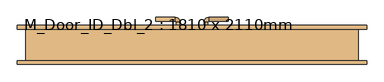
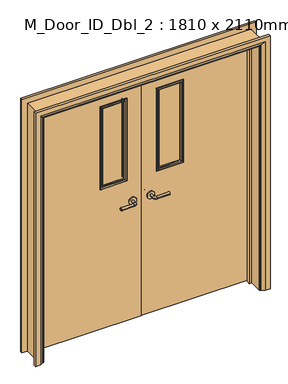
"""IFC4 building model written with IfcOpenShell, lengths in millimetres: door geometry, M_Door_ID_Dbl_2 : 1810 x 2110mm."""

from ifc_helpers import new_model, si_unit, point, frame, frame_2d, origin, place, context, project, spatial, polyline, circle_curve, ellipse_curve, trimmed, segment, composite_curve, outline, extrude, faceted_brep, source, transform, mapped, element, save
from ifc_brep_helpers import plane_surface, cylinder_surface, revolved_surface, advanced_brep


def m_door_id_dbl_2_1810_x_2110mm_165bc984(model_context):
    return source(origin(), model_context, "Body", "SolidModel", [
        advanced_brep(
        [(-65.0, 47.0, 1007.0), (-85.0, 47.0, 1007.0), (-65.0, 17.0, 1007.0), (-85.0, 17.0, 1007.0), (-90.0, 12.0, 1007.0), (-90.0, -8.0, 1007.0), (-195.0, -8.0, 1007.0), (-195.0, 12.0, 1007.0)],
        [
            (0, 1, circle_curve(frame((-75.0, 47.0, 1007.0), z_axis=(0.0, 1.0, 0.0), x_axis=(-1.0, 0.0, 0.0)), 10.0)),
            (1, 0, circle_curve(frame((-75.0, 47.0, 1007.0), z_axis=(0.0, 1.0, 0.0), x_axis=(-1.0, 0.0, 0.0)), 10.0)),
            (0, 2),
            (2, 3, circle_curve(frame((-75.0, 17.0, 1007.0), z_axis=(0.0, 1.0, 0.0), x_axis=(-1.0, 0.0, 0.0)), 10.0)),
            (3, 1),
            (3, 2, circle_curve(frame((-75.0, 17.0, 1007.0), z_axis=(0.0, 1.0, 0.0), x_axis=(-1.0, 0.0, 0.0)), 10.0)),
            (4, 3, circle_curve(frame((-90.0, 17.0, 1007.0), z_axis=(0.0, 0.0, 1.0), x_axis=(1.0, 0.0, 0.0)), 5.0)),
            (2, 5, circle_curve(frame((-90.0, 17.0, 1007.0), z_axis=(0.0, 0.0, -1.0), x_axis=(1.0, 0.0, 0.0)), 25.0)),
            (5, 4, circle_curve(frame((-90.0, 2.0, 1007.0), z_axis=(1.0, 0.0, 0.0), x_axis=(0.0, 1.0, 0.0)), 10.0)),
            (4, 5, circle_curve(frame((-90.0, 2.0, 1007.0), z_axis=(1.0, 0.0, 0.0), x_axis=(0.0, 1.0, 0.0)), 10.0)),
            (6, 7, circle_curve(frame((-195.0, 2.0, 1007.0), z_axis=(-1.0, 0.0, 0.0), x_axis=(0.0, 1.0, 0.0)), 10.0)),
            (7, 6, circle_curve(frame((-195.0, 2.0, 1007.0), z_axis=(-1.0, 0.0, 0.0), x_axis=(0.0, 1.0, 0.0)), 10.0)),
            (5, 6),
            (7, 4),
        ],
        [
            plane_surface(frame((-75.0, 47.0, 1007.0), z_axis=(0.0, 1.0, 0.0), x_axis=(0.0, 0.0, 1.0))),
            cylinder_surface(frame((-75.0, 47.0, 1007.0), z_axis=(0.0, 1.0, 0.0), x_axis=(-1.0, 0.0, 0.0)), 10.0),
            revolved_surface(trimmed(ellipse_curve(frame((-75.0, 17.0, 1007.0), z_axis=(0.0, 1.0, 0.0), x_axis=(-1.0, 0.0, 0.0)), 10.0, 10.0), [point((-65.0, 17.0, 1007.0))], [point((-85.0, 17.0, 1007.0))], True, "CARTESIAN"), (-90.0, 17.0, 1007.0), (0.0, 0.0, -1.0)),
            revolved_surface(trimmed(ellipse_curve(frame((-75.0, 17.0, 1007.0), z_axis=(0.0, 1.0, 0.0), x_axis=(-1.0, 0.0, 0.0)), 10.0, 10.0), [point((-85.0, 17.0, 1007.0))], [point((-65.0, 17.0, 1007.0))], True, "CARTESIAN"), (-90.0, 17.0, 1007.0), (0.0, 0.0, -1.0)),
            plane_surface(frame((-195.0, 2.0, 1007.0), z_axis=(-1.0, 0.0, 0.0), x_axis=(0.0, 0.0, 1.0))),
            cylinder_surface(frame((-90.0, 2.0, 1007.0), z_axis=(1.0, 0.0, 0.0), x_axis=(0.0, 1.0, 0.0)), 10.0),
        ],
        [
            (0, [[1, 2]]),
            (1, [[-1, 3, 4, 5]]),
            (1, [[-2, -5, 6, -3]]),
            (2, [[7, -4, 8, 9]]),
            (3, [[-8, -6, -7, 10]]),
            (4, [[11, 12]]),
            (5, [[-9, 13, -12, 14]]),
            (5, [[-10, -14, -11, -13]]),
        ],
    ),
        extrude(outline(composite_curve([segment(trimmed(circle_curve(frame_2d((1007.0, -72.5)), 30.0), [point((1007.0, -42.5))], [point((1007.0, -102.5))], False, "CARTESIAN"), True, "CONTINUOUS"), segment(trimmed(circle_curve(frame_2d((1007.0, -72.5)), 30.0), [point((1007.0, -102.5))], [point((1007.0, -42.5))], False, "CARTESIAN"), True, "CONTINUOUS")], self_intersect=False)), frame((0.0, 47.0, 0.0), z_axis=(0.0, 1.0, 0.0), x_axis=(0.0, 0.0, 1.0)), (0.0, 0.0, 1.0), 8.0),
        advanced_brep(
        [(-65.0, 93.0, 1007.0), (-85.0, 93.0, 1007.0), (-85.0, 123.0, 1007.0), (-65.0, 123.0, 1007.0), (-90.0, 128.0, 1007.0), (-90.0, 148.0, 1007.0), (-195.0, 148.0, 1007.0), (-195.0, 128.0, 1007.0)],
        [
            (0, 1, circle_curve(frame((-75.0, 93.0, 1007.0), z_axis=(0.0, -1.0, 0.0), x_axis=(-1.0, 0.0, 0.0)), 10.0)),
            (1, 0, circle_curve(frame((-75.0, 93.0, 1007.0), z_axis=(0.0, -1.0, 0.0), x_axis=(-1.0, 0.0, 0.0)), 10.0)),
            (1, 2),
            (2, 3, circle_curve(frame((-75.0, 123.0, 1007.0), z_axis=(0.0, -1.0, 0.0), x_axis=(-1.0, 0.0, 0.0)), 10.0)),
            (3, 0),
            (3, 2, circle_curve(frame((-75.0, 123.0, 1007.0), z_axis=(0.0, -1.0, 0.0), x_axis=(-1.0, 0.0, 0.0)), 10.0)),
            (4, 5, circle_curve(frame((-90.0, 138.0, 1007.0), z_axis=(1.0, 0.0, 0.0), x_axis=(0.0, -1.0, 0.0)), 10.0)),
            (5, 3, circle_curve(frame((-90.0, 123.0, 1007.0), z_axis=(0.0, 0.0, -1.0), x_axis=(1.0, 0.0, 0.0)), 25.0)),
            (2, 4, circle_curve(frame((-90.0, 123.0, 1007.0), z_axis=(0.0, 0.0, 1.0), x_axis=(1.0, 0.0, 0.0)), 5.0)),
            (5, 4, circle_curve(frame((-90.0, 138.0, 1007.0), z_axis=(1.0, 0.0, 0.0), x_axis=(0.0, -1.0, 0.0)), 10.0)),
            (6, 7, circle_curve(frame((-195.0, 138.0, 1007.0), z_axis=(-1.0, 0.0, 0.0), x_axis=(0.0, -1.0, 0.0)), 10.0)),
            (7, 6, circle_curve(frame((-195.0, 138.0, 1007.0), z_axis=(-1.0, 0.0, 0.0), x_axis=(0.0, -1.0, 0.0)), 10.0)),
            (4, 7),
            (6, 5),
        ],
        [
            plane_surface(frame((-75.0, 93.0, 1007.0), z_axis=(0.0, -1.0, 0.0), x_axis=(0.0, 0.0, 1.0))),
            cylinder_surface(frame((-75.0, 93.0, 1007.0), z_axis=(0.0, -1.0, 0.0), x_axis=(-1.0, 0.0, 0.0)), 10.0),
            revolved_surface(trimmed(ellipse_curve(frame((-75.0, 123.0, 1007.0), z_axis=(0.0, 1.0, 0.0), x_axis=(-1.0, 0.0, 0.0)), 10.0, 10.0), [point((-65.0, 123.0, 1007.0))], [point((-85.0, 123.0, 1007.0))], True, "CARTESIAN"), (-90.0, 123.0, 1007.0), (0.0, 0.0, -1.0)),
            revolved_surface(trimmed(ellipse_curve(frame((-75.0, 123.0, 1007.0), z_axis=(0.0, 1.0, 0.0), x_axis=(-1.0, 0.0, 0.0)), 10.0, 10.0), [point((-85.0, 123.0, 1007.0))], [point((-65.0, 123.0, 1007.0))], True, "CARTESIAN"), (-90.0, 123.0, 1007.0), (0.0, 0.0, -1.0)),
            plane_surface(frame((-195.0, 138.0, 1007.0), z_axis=(-1.0, 0.0, 0.0), x_axis=(0.0, 0.0, 1.0))),
            cylinder_surface(frame((-90.0, 138.0, 1007.0), z_axis=(1.0, 0.0, 0.0), x_axis=(0.0, -1.0, 0.0)), 10.0),
        ],
        [
            (0, [[1, 2]]),
            (1, [[3, 4, 5, -2]]),
            (1, [[-5, 6, -3, -1]]),
            (2, [[7, 8, -4, 9]]),
            (3, [[10, -9, -6, -8]]),
            (4, [[11, 12]]),
            (5, [[13, -11, 14, -7]]),
            (5, [[-14, -12, -13, -10]]),
        ],
    ),
        extrude(outline(composite_curve([segment(trimmed(circle_curve(frame_2d((1007.0, -72.5)), 30.0), [point((1007.0, -42.5))], [point((1007.0, -102.5))], False, "CARTESIAN"), True, "CONTINUOUS"), segment(trimmed(circle_curve(frame_2d((1007.0, -72.5)), 30.0), [point((1007.0, -102.5))], [point((1007.0, -42.5))], False, "CARTESIAN"), True, "CONTINUOUS")], self_intersect=False)), frame((0.0, 85.0, 0.0), z_axis=(0.0, 1.0, 0.0), x_axis=(0.0, 0.0, 1.0)), (0.0, 0.0, 1.0), 8.0),
        advanced_brep(
        [(65.0, 47.0, 1007.0), (85.0, 47.0, 1007.0), (85.0, 17.0, 1007.0), (65.0, 17.0, 1007.0), (90.0, 12.0, 1007.0), (90.0, -8.0, 1007.0), (195.0, -8.0, 1007.0), (195.0, 12.0, 1007.0)],
        [
            (0, 1, circle_curve(frame((75.0, 47.0, 1007.0), z_axis=(0.0, 1.0, 0.0), x_axis=(1.0, 0.0, 0.0)), 10.0)),
            (1, 0, circle_curve(frame((75.0, 47.0, 1007.0), z_axis=(0.0, 1.0, 0.0), x_axis=(1.0, 0.0, 0.0)), 10.0)),
            (1, 2),
            (2, 3, circle_curve(frame((75.0, 17.0, 1007.0), z_axis=(0.0, 1.0, 0.0), x_axis=(1.0, 0.0, 0.0)), 10.0)),
            (3, 0),
            (3, 2, circle_curve(frame((75.0, 17.0, 1007.0), z_axis=(0.0, 1.0, 0.0), x_axis=(1.0, 0.0, 0.0)), 10.0)),
            (4, 5, circle_curve(frame((90.0, 2.0, 1007.0), z_axis=(-1.0, 0.0, 0.0), x_axis=(0.0, 1.0, 0.0)), 10.0)),
            (5, 3, circle_curve(frame((90.0, 17.0, 1007.0), z_axis=(0.0, 0.0, -1.0), x_axis=(-1.0, 0.0, 0.0)), 25.0)),
            (2, 4, circle_curve(frame((90.0, 17.0, 1007.0), z_axis=(0.0, 0.0, 1.0), x_axis=(-1.0, 0.0, 0.0)), 5.0)),
            (5, 4, circle_curve(frame((90.0, 2.0, 1007.0), z_axis=(-1.0, 0.0, 0.0), x_axis=(0.0, 1.0, 0.0)), 10.0)),
            (6, 7, circle_curve(frame((195.0, 2.0, 1007.0), z_axis=(1.0, 0.0, 0.0), x_axis=(0.0, 1.0, 0.0)), 10.0)),
            (7, 6, circle_curve(frame((195.0, 2.0, 1007.0), z_axis=(1.0, 0.0, 0.0), x_axis=(0.0, 1.0, 0.0)), 10.0)),
            (4, 7),
            (6, 5),
        ],
        [
            plane_surface(frame((75.0, 47.0, 1007.0), z_axis=(0.0, 1.0, 0.0), x_axis=(0.0, 0.0, 1.0))),
            cylinder_surface(frame((75.0, 47.0, 1007.0), z_axis=(0.0, 1.0, 0.0), x_axis=(1.0, 0.0, 0.0)), 10.0),
            revolved_surface(trimmed(ellipse_curve(frame((75.0, 17.0, 1007.0), z_axis=(0.0, -1.0, 0.0), x_axis=(1.0, 0.0, 0.0)), 10.0, 10.0), [point((65.0, 17.0, 1007.0))], [point((85.0, 17.0, 1007.0))], True, "CARTESIAN"), (90.0, 17.0, 1007.0), (0.0, 0.0, -1.0)),
            revolved_surface(trimmed(ellipse_curve(frame((75.0, 17.0, 1007.0), z_axis=(0.0, -1.0, 0.0), x_axis=(1.0, 0.0, 0.0)), 10.0, 10.0), [point((85.0, 17.0, 1007.0))], [point((65.0, 17.0, 1007.0))], True, "CARTESIAN"), (90.0, 17.0, 1007.0), (0.0, 0.0, -1.0)),
            plane_surface(frame((195.0, 2.0, 1007.0), z_axis=(1.0, 0.0, 0.0), x_axis=(0.0, 0.0, 1.0))),
            cylinder_surface(frame((90.0, 2.0, 1007.0), z_axis=(-1.0, 0.0, 0.0), x_axis=(0.0, 1.0, 0.0)), 10.0),
        ],
        [
            (0, [[1, 2]]),
            (1, [[3, 4, 5, -2]]),
            (1, [[-5, 6, -3, -1]]),
            (2, [[7, 8, -4, 9]]),
            (3, [[10, -9, -6, -8]]),
            (4, [[11, 12]]),
            (5, [[13, -11, 14, -7]]),
            (5, [[-14, -12, -13, -10]]),
        ],
    ),
        extrude(outline(composite_curve([segment(trimmed(circle_curve(frame_2d((1007.0, 72.5)), 30.0), [point((1007.0, 42.5))], [point((1007.0, 102.5))], False, "CARTESIAN"), True, "CONTINUOUS"), segment(trimmed(circle_curve(frame_2d((1007.0, 72.5)), 30.0), [point((1007.0, 102.5))], [point((1007.0, 42.5))], False, "CARTESIAN"), True, "CONTINUOUS")], self_intersect=False)), frame((0.0, 47.0, 0.0), z_axis=(0.0, 1.0, 0.0), x_axis=(0.0, 0.0, 1.0)), (0.0, 0.0, 1.0), 8.0),
        advanced_brep(
        [(65.0, 93.0, 1007.0), (85.0, 93.0, 1007.0), (65.0, 123.0, 1007.0), (85.0, 123.0, 1007.0), (90.0, 128.0, 1007.0), (90.0, 148.0, 1007.0), (195.0, 148.0, 1007.0), (195.0, 128.0, 1007.0)],
        [
            (0, 1, circle_curve(frame((75.0, 93.0, 1007.0), z_axis=(0.0, -1.0, 0.0), x_axis=(1.0, 0.0, 0.0)), 10.0)),
            (1, 0, circle_curve(frame((75.0, 93.0, 1007.0), z_axis=(0.0, -1.0, 0.0), x_axis=(1.0, 0.0, 0.0)), 10.0)),
            (0, 2),
            (2, 3, circle_curve(frame((75.0, 123.0, 1007.0), z_axis=(0.0, -1.0, 0.0), x_axis=(1.0, 0.0, 0.0)), 10.0)),
            (3, 1),
            (3, 2, circle_curve(frame((75.0, 123.0, 1007.0), z_axis=(0.0, -1.0, 0.0), x_axis=(1.0, 0.0, 0.0)), 10.0)),
            (4, 3, circle_curve(frame((90.0, 123.0, 1007.0), z_axis=(0.0, 0.0, 1.0), x_axis=(-1.0, 0.0, 0.0)), 5.0)),
            (2, 5, circle_curve(frame((90.0, 123.0, 1007.0), z_axis=(0.0, 0.0, -1.0), x_axis=(-1.0, 0.0, 0.0)), 25.0)),
            (5, 4, circle_curve(frame((90.0, 138.0, 1007.0), z_axis=(-1.0, 0.0, 0.0), x_axis=(0.0, -1.0, 0.0)), 10.0)),
            (4, 5, circle_curve(frame((90.0, 138.0, 1007.0), z_axis=(-1.0, 0.0, 0.0), x_axis=(0.0, -1.0, 0.0)), 10.0)),
            (6, 7, circle_curve(frame((195.0, 138.0, 1007.0), z_axis=(1.0, 0.0, 0.0), x_axis=(0.0, -1.0, 0.0)), 10.0)),
            (7, 6, circle_curve(frame((195.0, 138.0, 1007.0), z_axis=(1.0, 0.0, 0.0), x_axis=(0.0, -1.0, 0.0)), 10.0)),
            (5, 6),
            (7, 4),
        ],
        [
            plane_surface(frame((75.0, 93.0, 1007.0), z_axis=(0.0, -1.0, 0.0), x_axis=(0.0, 0.0, 1.0))),
            cylinder_surface(frame((75.0, 93.0, 1007.0), z_axis=(0.0, -1.0, 0.0), x_axis=(1.0, 0.0, 0.0)), 10.0),
            revolved_surface(trimmed(ellipse_curve(frame((75.0, 123.0, 1007.0), z_axis=(0.0, -1.0, 0.0), x_axis=(1.0, 0.0, 0.0)), 10.0, 10.0), [point((65.0, 123.0, 1007.0))], [point((85.0, 123.0, 1007.0))], True, "CARTESIAN"), (90.0, 123.0, 1007.0), (0.0, 0.0, -1.0)),
            revolved_surface(trimmed(ellipse_curve(frame((75.0, 123.0, 1007.0), z_axis=(0.0, -1.0, 0.0), x_axis=(1.0, 0.0, 0.0)), 10.0, 10.0), [point((85.0, 123.0, 1007.0))], [point((65.0, 123.0, 1007.0))], True, "CARTESIAN"), (90.0, 123.0, 1007.0), (0.0, 0.0, -1.0)),
            plane_surface(frame((195.0, 138.0, 1007.0), z_axis=(1.0, 0.0, 0.0), x_axis=(0.0, 0.0, 1.0))),
            cylinder_surface(frame((90.0, 138.0, 1007.0), z_axis=(-1.0, 0.0, 0.0), x_axis=(0.0, -1.0, 0.0)), 10.0),
        ],
        [
            (0, [[1, 2]]),
            (1, [[-1, 3, 4, 5]]),
            (1, [[-2, -5, 6, -3]]),
            (2, [[7, -4, 8, 9]]),
            (3, [[-8, -6, -7, 10]]),
            (4, [[11, 12]]),
            (5, [[-9, 13, -12, 14]]),
            (5, [[-10, -14, -11, -13]]),
        ],
    ),
        extrude(outline(composite_curve([segment(trimmed(circle_curve(frame_2d((1007.0, 72.5)), 30.0), [point((1007.0, 42.5))], [point((1007.0, 102.5))], False, "CARTESIAN"), True, "CONTINUOUS"), segment(trimmed(circle_curve(frame_2d((1007.0, 72.5)), 30.0), [point((1007.0, 102.5))], [point((1007.0, 42.5))], False, "CARTESIAN"), True, "CONTINUOUS")], self_intersect=False)), frame((0.0, 85.0, 0.0), z_axis=(0.0, 1.0, 0.0), x_axis=(0.0, 0.0, 1.0)), (0.0, 0.0, 1.0), 8.0),
        extrude(outline(polyline([(2102.0, -897.0), (0.0, -897.0), (0.0, -867.0), (2072.0, -867.0), (2072.0, 867.0), (0.0, 867.0), (0.0, 897.0), (2102.0, 897.0), (2102.0, -897.0)])), frame((0.0, -85.0, 0.0), z_axis=(0.0, 1.0, 0.0), x_axis=(0.0, 0.0, 1.0)), (0.0, 0.0, 1.0), 170.0),
        faceted_brep([(-848.0, 52.0, 0.0), (-848.0, 22.0, 0.0), (-867.0, 22.0, 0.0), (-867.0, 52.0, 0.0), (-848.0, 52.0, 2053.0), (-848.0, 22.0, 2053.0), (-867.0, 22.0, 2072.0), (-867.0, 52.0, 2072.0), (848.0, 52.0, 0.0), (867.0, 52.0, 0.0), (867.0, 22.0, 0.0), (848.0, 22.0, 0.0), (848.0, 52.0, 2053.0), (867.0, 52.0, 2072.0), (867.0, 22.0, 2072.0), (848.0, 22.0, 2053.0)], [[[0, 1, 2, 3]], [[1, 0, 4, 5]], [[2, 1, 5, 6]], [[3, 2, 6, 7]], [[0, 3, 7, 4]], [[8, 9, 10, 11]], [[12, 13, 9, 8]], [[13, 14, 10, 9]], [[14, 15, 11, 10]], [[15, 12, 8, 11]], [[5, 4, 12, 15]], [[6, 5, 15, 14]], [[7, 6, 14, 13]], [[4, 7, 13, 12]]]),
        advanced_brep(
        [(942.0, 105.0, 0.0), (942.0, 85.0, 0.0), (872.0, 85.0, 0.0), (876.0, 91.0, 0.0), (902.0, 105.0, 0.0), (942.0, 105.0, 2147.0), (942.0, 85.0, 2147.0), (-942.0, 85.0, 2147.0), (-942.0, 85.0, 0.0), (-872.0, 85.0, 0.0), (-872.0, 85.0, 2077.0), (872.0, 85.0, 2077.0), (876.0, 91.0, 2081.0), (902.0, 105.0, 2107.0), (-902.0, 105.0, 2107.0), (-902.0, 105.0, 0.0), (-942.0, 105.0, 0.0), (-942.0, 105.0, 2147.0), (-876.0, 91.0, 0.0), (-876.0, 91.0, 2081.0)],
        [
            (0, 1),
            (1, 2),
            (2, 3, circle_curve(frame((880.0, 84.0, 0.0), z_axis=(0.0, 0.0, -1.0), x_axis=(1.0, 0.0, 0.0)), 8.0622577)),
            (3, 4),
            (4, 0),
            (0, 5),
            (5, 6),
            (6, 1),
            (6, 7),
            (7, 8),
            (8, 9),
            (9, 10),
            (10, 11),
            (11, 2),
            (11, 12, ellipse_curve(frame((880.0, 84.0, 2085.0), z_axis=(0.7071067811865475, 0.0, -0.7071067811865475), x_axis=(-0.7071067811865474, 0.0, -0.7071067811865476)), 11.4017543, 8.0622577)),
            (12, 3),
            (12, 13),
            (13, 4),
            (13, 14),
            (14, 15),
            (15, 16),
            (16, 17),
            (17, 5),
            (7, 17),
            (16, 8),
            (15, 18),
            (18, 9, circle_curve(frame((-880.0, 84.0, 0.0), z_axis=(0.0, 0.0, -1.0), x_axis=(-1.0, 0.0, 0.0)), 8.0622577)),
            (19, 10, ellipse_curve(frame((-880.0, 84.0, 2085.0), z_axis=(-0.7071067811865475, 0.0, -0.7071067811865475), x_axis=(-0.7071067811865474, 0.0, 0.7071067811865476)), 11.4017543, 8.0622577)),
            (18, 19),
            (14, 19),
            (19, 12),
        ],
        [
            plane_surface(frame((872.0, 85.0, 0.0), z_axis=(0.0, 0.0, -1.0), x_axis=(0.0, -1.0, 0.0))),
            plane_surface(frame((942.0, 105.0, 0.0), z_axis=(1.0, 0.0, 0.0), x_axis=(0.0, 0.0, 1.0))),
            plane_surface(frame((942.0, 85.0, 0.0), z_axis=(0.0, -1.0, 0.0), x_axis=(0.0, 0.0, 1.0))),
            cylinder_surface(frame((880.0, 84.0, 0.0), z_axis=(0.0, 0.0, -1.0), x_axis=(1.0, 0.0, 0.0)), 8.0622577),
            plane_surface(frame((876.0, 91.0, 0.0), z_axis=(-0.4740998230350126, 0.8804710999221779, 0.0), x_axis=(0.0, 0.0, 1.0))),
            plane_surface(frame((902.0, 105.0, 0.0), z_axis=(0.0, 1.0, 0.0), x_axis=(0.0, 0.0, 1.0))),
            plane_surface(frame((-942.0, 105.0, 2147.0), z_axis=(-1.0, 0.0, 0.0), x_axis=(0.0, 0.0, -1.0))),
            plane_surface(frame((-872.0, 85.0, 0.0), z_axis=(0.0, 0.0, -1.0), x_axis=(0.0, -1.0, 0.0))),
            cylinder_surface(frame((-880.0, 84.0, 2077.0), z_axis=(0.0, 0.0, 1.0), x_axis=(-1.0, 0.0, 0.0)), 8.0622577),
            plane_surface(frame((-876.0, 91.0, 2081.0), z_axis=(0.4740998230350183, 0.8804710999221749, 0.0), x_axis=(0.0, 0.0, -1.0))),
            plane_surface(frame((942.0, 105.0, 2147.0), z_axis=(0.0, 0.0, 1.0), x_axis=(-1.0, 0.0, 0.0))),
            cylinder_surface(frame((872.0, 84.0, 2085.0), z_axis=(1.0, 0.0, 0.0), x_axis=(0.0, 0.0, 1.0)), 8.0622577),
            plane_surface(frame((876.0, 91.0, 2081.0), z_axis=(0.0, 0.8804710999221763, -0.4740998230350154), x_axis=(-1.0, 0.0, 0.0))),
        ],
        [
            (0, [[1, 2, 3, 4, 5]]),
            (1, [[-1, 6, 7, 8]]),
            (2, [[-2, -8, 9, 10, 11, 12, 13, 14]]),
            (3, [[-3, -14, 15, 16]]),
            (4, [[-4, -16, 17, 18]]),
            (5, [[-5, -18, 19, 20, 21, 22, 23, -6]]),
            (6, [[24, -22, 25, -10]]),
            (7, [[-21, 26, 27, -11, -25]]),
            (8, [[28, -12, -27, 29]]),
            (9, [[30, -29, -26, -20]]),
            (10, [[-7, -23, -24, -9]]),
            (11, [[-15, -13, -28, 31]]),
            (12, [[-17, -31, -30, -19]]),
        ],
    ),
        advanced_brep(
        [(-942.0, -105.0, 0.0), (-942.0, -85.0, 0.0), (-872.0, -85.0, 0.0), (-876.0, -91.0, 0.0), (-902.0, -105.0, 0.0), (-942.0, -105.0, 2147.0), (-942.0, -85.0, 2147.0), (942.0, -85.0, 2147.0), (942.0, -85.0, 0.0), (872.0, -85.0, 0.0), (872.0, -85.0, 2077.0), (-872.0, -85.0, 2077.0), (-876.0, -91.0, 2081.0), (-902.0, -105.0, 2107.0), (902.0, -105.0, 2107.0), (902.0, -105.0, 0.0), (942.0, -105.0, 0.0), (942.0, -105.0, 2147.0), (876.0, -91.0, 0.0), (876.0, -91.0, 2081.0)],
        [
            (0, 1),
            (1, 2),
            (2, 3, circle_curve(frame((-880.0, -84.0, 0.0), z_axis=(0.0, 0.0, -1.0), x_axis=(-1.0, 0.0, 0.0)), 8.0622577)),
            (3, 4),
            (4, 0),
            (0, 5),
            (5, 6),
            (6, 1),
            (6, 7),
            (7, 8),
            (8, 9),
            (9, 10),
            (10, 11),
            (11, 2),
            (11, 12, ellipse_curve(frame((-880.0, -84.0, 2085.0), z_axis=(-0.7071067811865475, 0.0, -0.7071067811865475), x_axis=(0.7071067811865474, 0.0, -0.7071067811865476)), 11.4017543, 8.0622577)),
            (12, 3),
            (12, 13),
            (13, 4),
            (13, 14),
            (14, 15),
            (15, 16),
            (16, 17),
            (17, 5),
            (7, 17),
            (16, 8),
            (15, 18),
            (18, 9, circle_curve(frame((880.0, -84.0, 0.0), z_axis=(0.0, 0.0, -1.0), x_axis=(1.0, 0.0, 0.0)), 8.0622577)),
            (19, 10, ellipse_curve(frame((880.0, -84.0, 2085.0), z_axis=(0.7071067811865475, 0.0, -0.7071067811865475), x_axis=(0.7071067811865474, 0.0, 0.7071067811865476)), 11.4017543, 8.0622577)),
            (18, 19),
            (14, 19),
            (19, 12),
        ],
        [
            plane_surface(frame((-872.0, -85.0, 0.0), z_axis=(0.0, 0.0, -1.0), x_axis=(0.0, -1.0, 0.0))),
            plane_surface(frame((-942.0, -105.0, 0.0), z_axis=(-1.0, 0.0, 0.0), x_axis=(0.0, 0.0, 1.0))),
            plane_surface(frame((-942.0, -85.0, 0.0), z_axis=(0.0, 1.0, 0.0), x_axis=(0.0, 0.0, 1.0))),
            cylinder_surface(frame((-880.0, -84.0, 0.0), z_axis=(0.0, 0.0, -1.0), x_axis=(-1.0, 0.0, 0.0)), 8.0622577),
            plane_surface(frame((-876.0, -91.0, 0.0), z_axis=(0.4740998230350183, -0.8804710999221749, 0.0), x_axis=(0.0, 0.0, 1.0))),
            plane_surface(frame((-902.0, -105.0, 0.0), z_axis=(0.0, -1.0, 0.0), x_axis=(0.0, 0.0, 1.0))),
            plane_surface(frame((942.0, -105.0, 2147.0), z_axis=(1.0, 0.0, 0.0), x_axis=(0.0, 0.0, -1.0))),
            plane_surface(frame((872.0, -85.0, 0.0), z_axis=(0.0, 0.0, -1.0), x_axis=(0.0, -1.0, 0.0))),
            cylinder_surface(frame((880.0, -84.0, 2077.0), z_axis=(0.0, 0.0, 1.0), x_axis=(1.0, 0.0, 0.0)), 8.0622577),
            plane_surface(frame((876.0, -91.0, 2081.0), z_axis=(-0.4740998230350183, -0.8804710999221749, 0.0), x_axis=(0.0, 0.0, -1.0))),
            plane_surface(frame((-942.0, -105.0, 2147.0), z_axis=(0.0, 0.0, 1.0), x_axis=(1.0, 0.0, 0.0))),
            cylinder_surface(frame((-872.0, -84.0, 2085.0), z_axis=(-1.0, 0.0, 0.0), x_axis=(0.0, 0.0, 1.0)), 8.0622577),
            plane_surface(frame((-876.0, -91.0, 2081.0), z_axis=(0.0, -0.8804710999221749, -0.4740998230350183), x_axis=(1.0, 0.0, 0.0))),
        ],
        [
            (0, [[1, 2, 3, 4, 5]]),
            (1, [[-1, 6, 7, 8]]),
            (2, [[-2, -8, 9, 10, 11, 12, 13, 14]]),
            (3, [[-3, -14, 15, 16]]),
            (4, [[-4, -16, 17, 18]]),
            (5, [[-5, -18, 19, 20, 21, 22, 23, -6]]),
            (6, [[24, -22, 25, -10]]),
            (7, [[-21, 26, 27, -11, -25]]),
            (8, [[28, -12, -27, 29]]),
            (9, [[30, -29, -26, -20]]),
            (10, [[-7, -23, -24, -9]]),
            (11, [[-15, -13, -28, 31]]),
            (12, [[-17, -31, -30, -19]]),
        ],
    ),
        extrude(outline(polyline([(5.753223, 864.0), (2069.0, 864.0), (2069.0, 1.5), (5.753223, 1.5), (5.753223, 864.0)]), holes=[polyline([(1885.0, 126.5), (1885.0, 326.5), (1200.0, 326.5), (1200.0, 126.5), (1885.0, 126.5)])]), frame((0.0, 55.0, 0.0), z_axis=(0.0, 1.0, 0.0), x_axis=(0.0, 0.0, 1.0)), (0.0, 0.0, 1.0), 30.0),
        extrude(outline(polyline([(5.753223, -864.0), (5.753223, -1.5), (2069.0, -1.5), (2069.0, -864.0), (5.753223, -864.0)]), holes=[polyline([(1885.0, -326.5), (1885.0, -126.5), (1200.0, -126.5), (1200.0, -326.5), (1885.0, -326.5)])]), frame((0.0, 55.0, 0.0), z_axis=(0.0, 1.0, 0.0), x_axis=(0.0, 0.0, 1.0)), (0.0, 0.0, 1.0), 30.0),
        extrude(outline(polyline([(326.5, 65.0), (126.5, 65.0), (126.5, 75.0), (326.5, 75.0), (326.5, 65.0)])), frame((0.0, 0.0, 1200.0), z_axis=(0.0, 0.0, 1.0), x_axis=(1.0, 0.0, 0.0)), (0.0, 0.0, 1.0), 685.0),
        extrude(outline(polyline([(-126.5, 65.0), (-326.5, 65.0), (-326.5, 75.0), (-126.5, 75.0), (-126.5, 65.0)])), frame((0.0, 0.0, 1200.0), z_axis=(0.0, 0.0, 1.0), x_axis=(1.0, 0.0, 0.0)), (0.0, 0.0, 1.0), 685.0),
        advanced_brep(
        [(-326.5, 75.0, 1885.0), (-326.5, 85.0, 1885.0), (-326.5, 85.0, 1200.0), (-326.5, 75.0, 1200.0), (-314.5, 86.0, 1873.0), (-314.5, 75.0, 1873.0), (-314.5, 75.0, 1212.0), (-314.5, 86.0, 1212.0), (-319.5, 91.0, 1878.0), (-319.5, 91.0, 1207.0), (-334.5, 89.0, 1893.0), (-332.5, 91.0, 1891.0), (-332.5, 91.0, 1194.0), (-334.5, 89.0, 1192.0), (-334.5, 85.0, 1893.0), (-334.5, 85.0, 1192.0), (-126.5, 85.0, 1200.0), (-126.5, 75.0, 1200.0), (-138.5, 75.0, 1212.0), (-138.5, 86.0, 1212.0), (-133.5, 91.0, 1207.0), (-120.5, 91.0, 1194.0), (-118.5, 89.0, 1192.0), (-118.5, 85.0, 1192.0), (-126.5, 85.0, 1885.0), (-126.5, 75.0, 1885.0), (-138.5, 75.0, 1873.0), (-138.5, 86.0, 1873.0), (-133.5, 91.0, 1878.0), (-120.5, 91.0, 1891.0), (-118.5, 89.0, 1893.0), (-118.5, 85.0, 1893.0)],
        [
            (0, 1),
            (1, 2),
            (2, 3),
            (3, 0),
            (4, 5),
            (5, 6),
            (6, 7),
            (7, 4),
            (8, 4, ellipse_curve(frame((-319.5, 86.0, 1878.0), z_axis=(-0.7071067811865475, 0.0, -0.7071067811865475), x_axis=(-0.7071067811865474, 0.0, 0.7071067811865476)), 7.0710678, 5.0)),
            (7, 9, ellipse_curve(frame((-319.5, 86.0, 1207.0), z_axis=(-0.7071067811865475, 0.0, 0.7071067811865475), x_axis=(0.7071067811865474, 0.0, 0.7071067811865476)), 7.0710678, 5.0)),
            (9, 8),
            (10, 11, ellipse_curve(frame((-332.5, 89.0, 1891.0), z_axis=(-0.7071067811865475, 0.0, -0.7071067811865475), x_axis=(-0.7071067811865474, 0.0, 0.7071067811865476)), 2.8284271, 2.0)),
            (11, 12),
            (12, 13, ellipse_curve(frame((-332.5, 89.0, 1194.0), z_axis=(-0.7071067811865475, 0.0, 0.7071067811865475), x_axis=(0.7071067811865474, 0.0, 0.7071067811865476)), 2.8284271, 2.0)),
            (13, 10),
            (14, 10),
            (13, 15),
            (15, 14),
            (2, 16),
            (16, 17),
            (17, 3),
            (6, 18),
            (18, 19),
            (19, 7),
            (19, 20, ellipse_curve(frame((-133.5, 86.0, 1207.0), z_axis=(-0.7071067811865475, 0.0, -0.7071067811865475), x_axis=(-0.7071067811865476, 0.0, 0.7071067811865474)), 7.0710678, 5.0)),
            (20, 9),
            (12, 21),
            (21, 22, ellipse_curve(frame((-120.5, 89.0, 1194.0), z_axis=(-0.7071067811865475, 0.0, -0.7071067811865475), x_axis=(-0.7071067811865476, 0.0, 0.7071067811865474)), 2.8284271, 2.0)),
            (22, 13),
            (22, 23),
            (23, 15),
            (16, 24),
            (24, 25),
            (25, 17),
            (18, 26),
            (26, 27),
            (27, 19),
            (27, 28, ellipse_curve(frame((-133.5, 86.0, 1878.0), z_axis=(0.7071067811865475, 0.0, -0.7071067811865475), x_axis=(-0.7071067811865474, 0.0, -0.7071067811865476)), 7.0710678, 5.0)),
            (28, 20),
            (21, 29),
            (29, 30, ellipse_curve(frame((-120.5, 89.0, 1891.0), z_axis=(0.7071067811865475, 0.0, -0.7071067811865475), x_axis=(-0.7071067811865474, 0.0, -0.7071067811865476)), 2.8284271, 2.0)),
            (30, 22),
            (30, 31),
            (31, 23),
            (31, 14),
            (1, 24),
            (0, 25),
            (5, 26),
            (4, 27),
            (8, 28),
            (11, 29),
            (10, 30),
        ],
        [
            plane_surface(frame((-326.5, 85.0, 1885.0), z_axis=(-1.0, 0.0, 0.0), x_axis=(0.0, 0.0, -1.0))),
            plane_surface(frame((-314.5, 75.0, 1873.0), z_axis=(1.0, 0.0, 0.0), x_axis=(0.0, 0.0, -1.0))),
            cylinder_surface(frame((-319.5, 86.0, 1885.0), z_axis=(0.0, 0.0, 1.0), x_axis=(-1.0, 0.0, 0.0)), 5.0),
            cylinder_surface(frame((-332.5, 89.0, 1885.0), z_axis=(0.0, 0.0, 1.0), x_axis=(-1.0, 0.0, 0.0)), 2.0),
            plane_surface(frame((-334.5, 89.0, 1893.0), z_axis=(-1.0, 0.0, 0.0), x_axis=(0.0, 0.0, -1.0))),
            plane_surface(frame((-326.5, 85.0, 1200.0), z_axis=(0.0, 0.0, -1.0), x_axis=(1.0, 0.0, 0.0))),
            plane_surface(frame((-314.5, 75.0, 1212.0), z_axis=(0.0, 0.0, 1.0), x_axis=(1.0, 0.0, 0.0))),
            cylinder_surface(frame((-326.5, 86.0, 1207.0), z_axis=(-1.0, 0.0, 0.0), x_axis=(0.0, 0.0, -1.0)), 5.0),
            cylinder_surface(frame((-326.5, 89.0, 1194.0), z_axis=(-1.0, 0.0, 0.0), x_axis=(0.0, 0.0, -1.0)), 2.0),
            plane_surface(frame((-334.5, 89.0, 1192.0), z_axis=(0.0, 0.0, -1.0), x_axis=(1.0, 0.0, 0.0))),
            plane_surface(frame((-126.5, 85.0, 1200.0), z_axis=(1.0, 0.0, 0.0), x_axis=(0.0, 0.0, 1.0))),
            plane_surface(frame((-138.5, 75.0, 1212.0), z_axis=(-1.0, 0.0, 0.0), x_axis=(0.0, 0.0, 1.0))),
            cylinder_surface(frame((-133.5, 86.0, 1200.0), z_axis=(0.0, 0.0, -1.0), x_axis=(1.0, 0.0, 0.0)), 5.0),
            cylinder_surface(frame((-120.5, 89.0, 1200.0), z_axis=(0.0, 0.0, -1.0), x_axis=(1.0, 0.0, 0.0)), 2.0),
            plane_surface(frame((-118.5, 89.0, 1192.0), z_axis=(1.0, 0.0, 0.0), x_axis=(0.0, 0.0, 1.0))),
            plane_surface(frame((-118.5, 85.0, 1893.0), z_axis=(0.0, -1.0, 0.0), x_axis=(-1.0, 0.0, 0.0))),
            plane_surface(frame((-126.5, 85.0, 1885.0), z_axis=(0.0, 0.0, 1.0), x_axis=(-1.0, 0.0, 0.0))),
            plane_surface(frame((-126.5, 75.0, 1885.0), z_axis=(0.0, -1.0, 0.0), x_axis=(-1.0, 0.0, 0.0))),
            plane_surface(frame((-138.5, 75.0, 1873.0), z_axis=(0.0, 0.0, -1.0), x_axis=(-1.0, 0.0, 0.0))),
            cylinder_surface(frame((-126.5, 86.0, 1878.0), z_axis=(1.0, 0.0, 0.0), x_axis=(0.0, 0.0, 1.0)), 5.0),
            plane_surface(frame((-133.5, 91.0, 1878.0), z_axis=(0.0, 1.0, 0.0), x_axis=(-1.0, 0.0, 0.0))),
            cylinder_surface(frame((-126.5, 89.0, 1891.0), z_axis=(1.0, 0.0, 0.0), x_axis=(0.0, 0.0, 1.0)), 2.0),
            plane_surface(frame((-118.5, 89.0, 1893.0), z_axis=(0.0, 0.0, 1.0), x_axis=(-1.0, 0.0, 0.0))),
        ],
        [
            (0, [[1, 2, 3, 4]]),
            (1, [[5, 6, 7, 8]]),
            (2, [[9, -8, 10, 11]]),
            (3, [[12, 13, 14, 15]]),
            (4, [[16, -15, 17, 18]]),
            (5, [[-3, 19, 20, 21]]),
            (6, [[-7, 22, 23, 24]]),
            (7, [[-10, -24, 25, 26]]),
            (8, [[-14, 27, 28, 29]]),
            (9, [[-17, -29, 30, 31]]),
            (10, [[-20, 32, 33, 34]]),
            (11, [[-23, 35, 36, 37]]),
            (12, [[-25, -37, 38, 39]]),
            (13, [[-28, 40, 41, 42]]),
            (14, [[-30, -42, 43, 44]]),
            (15, [[-31, -44, 45, -18], [46, -32, -19, -2]]),
            (16, [[-33, -46, -1, 47]]),
            (17, [[-21, -34, -47, -4], [48, -35, -22, -6]]),
            (18, [[-36, -48, -5, 49]]),
            (19, [[-38, -49, -9, 50]]),
            (20, [[51, -40, -27, -13], [-26, -39, -50, -11]]),
            (21, [[-41, -51, -12, 52]]),
            (22, [[-43, -52, -16, -45]]),
        ],
    ),
        advanced_brep(
        [(326.5, 75.0, 1200.0), (326.5, 85.0, 1200.0), (326.5, 85.0, 1885.0), (326.5, 75.0, 1885.0), (314.5, 86.0, 1212.0), (314.5, 75.0, 1212.0), (314.5, 75.0, 1873.0), (314.5, 86.0, 1873.0), (319.5, 91.0, 1207.0), (319.5, 91.0, 1878.0), (334.5, 89.0, 1192.0), (332.5, 91.0, 1194.0), (332.5, 91.0, 1891.0), (334.5, 89.0, 1893.0), (334.5, 85.0, 1192.0), (334.5, 85.0, 1893.0), (126.5, 85.0, 1885.0), (126.5, 75.0, 1885.0), (138.5, 75.0, 1873.0), (138.5, 86.0, 1873.0), (133.5, 91.0, 1878.0), (120.5, 91.0, 1891.0), (118.5, 89.0, 1893.0), (118.5, 85.0, 1893.0), (126.5, 85.0, 1200.0), (126.5, 75.0, 1200.0), (138.5, 75.0, 1212.0), (138.5, 86.0, 1212.0), (133.5, 91.0, 1207.0), (120.5, 91.0, 1194.0), (118.5, 89.0, 1192.0), (118.5, 85.0, 1192.0)],
        [
            (0, 1),
            (1, 2),
            (2, 3),
            (3, 0),
            (4, 5),
            (5, 6),
            (6, 7),
            (7, 4),
            (8, 4, ellipse_curve(frame((319.5, 86.0, 1207.0), z_axis=(0.7071067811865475, 0.0, 0.7071067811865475), x_axis=(0.7071067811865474, 0.0, -0.7071067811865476)), 7.0710678, 5.0)),
            (7, 9, ellipse_curve(frame((319.5, 86.0, 1878.0), z_axis=(0.7071067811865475, 0.0, -0.7071067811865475), x_axis=(-0.7071067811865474, 0.0, -0.7071067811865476)), 7.0710678, 5.0)),
            (9, 8),
            (10, 11, ellipse_curve(frame((332.5, 89.0, 1194.0), z_axis=(0.7071067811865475, 0.0, 0.7071067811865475), x_axis=(0.7071067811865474, 0.0, -0.7071067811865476)), 2.8284271, 2.0)),
            (11, 12),
            (12, 13, ellipse_curve(frame((332.5, 89.0, 1891.0), z_axis=(0.7071067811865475, 0.0, -0.7071067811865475), x_axis=(-0.7071067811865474, 0.0, -0.7071067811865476)), 2.8284271, 2.0)),
            (13, 10),
            (14, 10),
            (13, 15),
            (15, 14),
            (2, 16),
            (16, 17),
            (17, 3),
            (6, 18),
            (18, 19),
            (19, 7),
            (19, 20, ellipse_curve(frame((133.5, 86.0, 1878.0), z_axis=(0.7071067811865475, 0.0, 0.7071067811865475), x_axis=(0.7071067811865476, 0.0, -0.7071067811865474)), 7.0710678, 5.0)),
            (20, 9),
            (12, 21),
            (21, 22, ellipse_curve(frame((120.5, 89.0, 1891.0), z_axis=(0.7071067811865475, 0.0, 0.7071067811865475), x_axis=(0.7071067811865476, 0.0, -0.7071067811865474)), 2.8284271, 2.0)),
            (22, 13),
            (22, 23),
            (23, 15),
            (16, 24),
            (24, 25),
            (25, 17),
            (18, 26),
            (26, 27),
            (27, 19),
            (27, 28, ellipse_curve(frame((133.5, 86.0, 1207.0), z_axis=(-0.7071067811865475, 0.0, 0.7071067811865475), x_axis=(0.7071067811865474, 0.0, 0.7071067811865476)), 7.0710678, 5.0)),
            (28, 20),
            (21, 29),
            (29, 30, ellipse_curve(frame((120.5, 89.0, 1194.0), z_axis=(-0.7071067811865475, 0.0, 0.7071067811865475), x_axis=(0.7071067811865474, 0.0, 0.7071067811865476)), 2.8284271, 2.0)),
            (30, 22),
            (30, 31),
            (31, 23),
            (31, 14),
            (1, 24),
            (0, 25),
            (5, 26),
            (4, 27),
            (8, 28),
            (11, 29),
            (10, 30),
        ],
        [
            plane_surface(frame((326.5, 85.0, 1200.0), z_axis=(1.0, 0.0, 0.0), x_axis=(0.0, 0.0, 1.0))),
            plane_surface(frame((314.5, 75.0, 1212.0), z_axis=(-1.0, 0.0, 0.0), x_axis=(0.0, 0.0, 1.0))),
            cylinder_surface(frame((319.5, 86.0, 1200.0), z_axis=(0.0, 0.0, -1.0), x_axis=(1.0, 0.0, 0.0)), 5.0),
            cylinder_surface(frame((332.5, 89.0, 1200.0), z_axis=(0.0, 0.0, -1.0), x_axis=(1.0, 0.0, 0.0)), 2.0),
            plane_surface(frame((334.5, 89.0, 1192.0), z_axis=(1.0, 0.0, 0.0), x_axis=(0.0, 0.0, 1.0))),
            plane_surface(frame((326.5, 85.0, 1885.0), z_axis=(0.0, 0.0, 1.0), x_axis=(-1.0, 0.0, 0.0))),
            plane_surface(frame((314.5, 75.0, 1873.0), z_axis=(0.0, 0.0, -1.0), x_axis=(-1.0, 0.0, 0.0))),
            cylinder_surface(frame((326.5, 86.0, 1878.0), z_axis=(1.0, 0.0, 0.0), x_axis=(0.0, 0.0, 1.0)), 5.0),
            cylinder_surface(frame((326.5, 89.0, 1891.0), z_axis=(1.0, 0.0, 0.0), x_axis=(0.0, 0.0, 1.0)), 2.0),
            plane_surface(frame((334.5, 89.0, 1893.0), z_axis=(0.0, 0.0, 1.0), x_axis=(-1.0, 0.0, 0.0))),
            plane_surface(frame((126.5, 85.0, 1885.0), z_axis=(-1.0, 0.0, 0.0), x_axis=(0.0, 0.0, -1.0))),
            plane_surface(frame((138.5, 75.0, 1873.0), z_axis=(1.0, 0.0, 0.0), x_axis=(0.0, 0.0, -1.0))),
            cylinder_surface(frame((133.5, 86.0, 1885.0), z_axis=(0.0, 0.0, 1.0), x_axis=(-1.0, 0.0, 0.0)), 5.0),
            cylinder_surface(frame((120.5, 89.0, 1885.0), z_axis=(0.0, 0.0, 1.0), x_axis=(-1.0, 0.0, 0.0)), 2.0),
            plane_surface(frame((118.5, 89.0, 1893.0), z_axis=(-1.0, 0.0, 0.0), x_axis=(0.0, 0.0, -1.0))),
            plane_surface(frame((118.5, 85.0, 1192.0), z_axis=(0.0, -1.0, 0.0), x_axis=(1.0, 0.0, 0.0))),
            plane_surface(frame((126.5, 85.0, 1200.0), z_axis=(0.0, 0.0, -1.0), x_axis=(1.0, 0.0, 0.0))),
            plane_surface(frame((126.5, 75.0, 1200.0), z_axis=(0.0, -1.0, 0.0), x_axis=(1.0, 0.0, 0.0))),
            plane_surface(frame((138.5, 75.0, 1212.0), z_axis=(0.0, 0.0, 1.0), x_axis=(1.0, 0.0, 0.0))),
            cylinder_surface(frame((126.5, 86.0, 1207.0), z_axis=(-1.0, 0.0, 0.0), x_axis=(0.0, 0.0, -1.0)), 5.0),
            plane_surface(frame((133.5, 91.0, 1207.0), z_axis=(0.0, 1.0, 0.0), x_axis=(1.0, 0.0, 0.0))),
            cylinder_surface(frame((126.5, 89.0, 1194.0), z_axis=(-1.0, 0.0, 0.0), x_axis=(0.0, 0.0, -1.0)), 2.0),
            plane_surface(frame((118.5, 89.0, 1192.0), z_axis=(0.0, 0.0, -1.0), x_axis=(1.0, 0.0, 0.0))),
        ],
        [
            (0, [[1, 2, 3, 4]]),
            (1, [[5, 6, 7, 8]]),
            (2, [[9, -8, 10, 11]]),
            (3, [[12, 13, 14, 15]]),
            (4, [[16, -15, 17, 18]]),
            (5, [[-3, 19, 20, 21]]),
            (6, [[-7, 22, 23, 24]]),
            (7, [[-10, -24, 25, 26]]),
            (8, [[-14, 27, 28, 29]]),
            (9, [[-17, -29, 30, 31]]),
            (10, [[-20, 32, 33, 34]]),
            (11, [[-23, 35, 36, 37]]),
            (12, [[-25, -37, 38, 39]]),
            (13, [[-28, 40, 41, 42]]),
            (14, [[-30, -42, 43, 44]]),
            (15, [[-31, -44, 45, -18], [46, -32, -19, -2]]),
            (16, [[-33, -46, -1, 47]]),
            (17, [[-21, -34, -47, -4], [48, -35, -22, -6]]),
            (18, [[-36, -48, -5, 49]]),
            (19, [[-38, -49, -9, 50]]),
            (20, [[51, -40, -27, -13], [-26, -39, -50, -11]]),
            (21, [[-41, -51, -12, 52]]),
            (22, [[-43, -52, -16, -45]]),
        ],
    ),
        advanced_brep(
        [(-326.5, 65.0, 1200.0), (-326.5, 55.0, 1200.0), (-326.5, 55.0, 1885.0), (-326.5, 65.0, 1885.0), (-314.5, 54.0, 1212.0), (-314.5, 65.0, 1212.0), (-314.5, 65.0, 1873.0), (-314.5, 54.0, 1873.0), (-319.5, 49.0, 1207.0), (-319.5, 49.0, 1878.0), (-334.5, 51.0, 1192.0), (-332.5, 49.0, 1194.0), (-332.5, 49.0, 1891.0), (-334.5, 51.0, 1893.0), (-334.5, 55.0, 1192.0), (-334.5, 55.0, 1893.0), (-126.5, 55.0, 1885.0), (-126.5, 65.0, 1885.0), (-138.5, 65.0, 1873.0), (-138.5, 54.0, 1873.0), (-133.5, 49.0, 1878.0), (-120.5, 49.0, 1891.0), (-118.5, 51.0, 1893.0), (-118.5, 55.0, 1893.0), (-126.5, 55.0, 1200.0), (-126.5, 65.0, 1200.0), (-138.5, 65.0, 1212.0), (-138.5, 54.0, 1212.0), (-133.5, 49.0, 1207.0), (-120.5, 49.0, 1194.0), (-118.5, 51.0, 1192.0), (-118.5, 55.0, 1192.0)],
        [
            (0, 1),
            (1, 2),
            (2, 3),
            (3, 0),
            (4, 5),
            (5, 6),
            (6, 7),
            (7, 4),
            (8, 4, ellipse_curve(frame((-319.5, 54.0, 1207.0), z_axis=(-0.7071067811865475, 0.0, 0.7071067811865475), x_axis=(-0.7071067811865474, 0.0, -0.7071067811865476)), 7.0710678, 5.0)),
            (7, 9, ellipse_curve(frame((-319.5, 54.0, 1878.0), z_axis=(-0.7071067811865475, 0.0, -0.7071067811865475), x_axis=(0.7071067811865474, 0.0, -0.7071067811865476)), 7.0710678, 5.0)),
            (9, 8),
            (10, 11, ellipse_curve(frame((-332.5, 51.0, 1194.0), z_axis=(-0.7071067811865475, 0.0, 0.7071067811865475), x_axis=(-0.7071067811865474, 0.0, -0.7071067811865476)), 2.8284271, 2.0)),
            (11, 12),
            (12, 13, ellipse_curve(frame((-332.5, 51.0, 1891.0), z_axis=(-0.7071067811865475, 0.0, -0.7071067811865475), x_axis=(0.7071067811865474, 0.0, -0.7071067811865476)), 2.8284271, 2.0)),
            (13, 10),
            (14, 10),
            (13, 15),
            (15, 14),
            (2, 16),
            (16, 17),
            (17, 3),
            (6, 18),
            (18, 19),
            (19, 7),
            (19, 20, ellipse_curve(frame((-133.5, 54.0, 1878.0), z_axis=(-0.7071067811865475, 0.0, 0.7071067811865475), x_axis=(-0.7071067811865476, 0.0, -0.7071067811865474)), 7.0710678, 5.0)),
            (20, 9),
            (12, 21),
            (21, 22, ellipse_curve(frame((-120.5, 51.0, 1891.0), z_axis=(-0.7071067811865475, 0.0, 0.7071067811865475), x_axis=(-0.7071067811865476, 0.0, -0.7071067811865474)), 2.8284271, 2.0)),
            (22, 13),
            (22, 23),
            (23, 15),
            (16, 24),
            (24, 25),
            (25, 17),
            (18, 26),
            (26, 27),
            (27, 19),
            (27, 28, ellipse_curve(frame((-133.5, 54.0, 1207.0), z_axis=(0.7071067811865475, 0.0, 0.7071067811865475), x_axis=(-0.7071067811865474, 0.0, 0.7071067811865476)), 7.0710678, 5.0)),
            (28, 20),
            (21, 29),
            (29, 30, ellipse_curve(frame((-120.5, 51.0, 1194.0), z_axis=(0.7071067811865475, 0.0, 0.7071067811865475), x_axis=(-0.7071067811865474, 0.0, 0.7071067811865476)), 2.8284271, 2.0)),
            (30, 22),
            (30, 31),
            (31, 23),
            (31, 14),
            (1, 24),
            (0, 25),
            (5, 26),
            (4, 27),
            (8, 28),
            (11, 29),
            (10, 30),
        ],
        [
            plane_surface(frame((-326.5, 55.0, 1200.0), z_axis=(-1.0, 0.0, 0.0), x_axis=(0.0, 0.0, 1.0))),
            plane_surface(frame((-314.5, 65.0, 1212.0), z_axis=(1.0, 0.0, 0.0), x_axis=(0.0, 0.0, 1.0))),
            cylinder_surface(frame((-319.5, 54.0, 1200.0), z_axis=(0.0, 0.0, -1.0), x_axis=(-1.0, 0.0, 0.0)), 5.0),
            cylinder_surface(frame((-332.5, 51.0, 1200.0), z_axis=(0.0, 0.0, -1.0), x_axis=(-1.0, 0.0, 0.0)), 2.0),
            plane_surface(frame((-334.5, 51.0, 1192.0), z_axis=(-1.0, 0.0, 0.0), x_axis=(0.0, 0.0, 1.0))),
            plane_surface(frame((-326.5, 55.0, 1885.0), z_axis=(0.0, 0.0, 1.0), x_axis=(1.0, 0.0, 0.0))),
            plane_surface(frame((-314.5, 65.0, 1873.0), z_axis=(0.0, 0.0, -1.0), x_axis=(1.0, 0.0, 0.0))),
            cylinder_surface(frame((-326.5, 54.0, 1878.0), z_axis=(-1.0, 0.0, 0.0), x_axis=(0.0, 0.0, 1.0)), 5.0),
            cylinder_surface(frame((-326.5, 51.0, 1891.0), z_axis=(-1.0, 0.0, 0.0), x_axis=(0.0, 0.0, 1.0)), 2.0),
            plane_surface(frame((-334.5, 51.0, 1893.0), z_axis=(0.0, 0.0, 1.0), x_axis=(1.0, 0.0, 0.0))),
            plane_surface(frame((-126.5, 55.0, 1885.0), z_axis=(1.0, 0.0, 0.0), x_axis=(0.0, 0.0, -1.0))),
            plane_surface(frame((-138.5, 65.0, 1873.0), z_axis=(-1.0, 0.0, 0.0), x_axis=(0.0, 0.0, -1.0))),
            cylinder_surface(frame((-133.5, 54.0, 1885.0), z_axis=(0.0, 0.0, 1.0), x_axis=(1.0, 0.0, 0.0)), 5.0),
            cylinder_surface(frame((-120.5, 51.0, 1885.0), z_axis=(0.0, 0.0, 1.0), x_axis=(1.0, 0.0, 0.0)), 2.0),
            plane_surface(frame((-118.5, 51.0, 1893.0), z_axis=(1.0, 0.0, 0.0), x_axis=(0.0, 0.0, -1.0))),
            plane_surface(frame((-118.5, 55.0, 1192.0), z_axis=(0.0, 1.0, 0.0), x_axis=(-1.0, 0.0, 0.0))),
            plane_surface(frame((-126.5, 55.0, 1200.0), z_axis=(0.0, 0.0, -1.0), x_axis=(-1.0, 0.0, 0.0))),
            plane_surface(frame((-126.5, 65.0, 1200.0), z_axis=(0.0, 1.0, 0.0), x_axis=(-1.0, 0.0, 0.0))),
            plane_surface(frame((-138.5, 65.0, 1212.0), z_axis=(0.0, 0.0, 1.0), x_axis=(-1.0, 0.0, 0.0))),
            cylinder_surface(frame((-126.5, 54.0, 1207.0), z_axis=(1.0, 0.0, 0.0), x_axis=(0.0, 0.0, -1.0)), 5.0),
            plane_surface(frame((-133.5, 49.0, 1207.0), z_axis=(0.0, -1.0, 0.0), x_axis=(-1.0, 0.0, 0.0))),
            cylinder_surface(frame((-126.5, 51.0, 1194.0), z_axis=(1.0, 0.0, 0.0), x_axis=(0.0, 0.0, -1.0)), 2.0),
            plane_surface(frame((-118.5, 51.0, 1192.0), z_axis=(0.0, 0.0, -1.0), x_axis=(-1.0, 0.0, 0.0))),
        ],
        [
            (0, [[1, 2, 3, 4]]),
            (1, [[5, 6, 7, 8]]),
            (2, [[9, -8, 10, 11]]),
            (3, [[12, 13, 14, 15]]),
            (4, [[16, -15, 17, 18]]),
            (5, [[-3, 19, 20, 21]]),
            (6, [[-7, 22, 23, 24]]),
            (7, [[-10, -24, 25, 26]]),
            (8, [[-14, 27, 28, 29]]),
            (9, [[-17, -29, 30, 31]]),
            (10, [[-20, 32, 33, 34]]),
            (11, [[-23, 35, 36, 37]]),
            (12, [[-25, -37, 38, 39]]),
            (13, [[-28, 40, 41, 42]]),
            (14, [[-30, -42, 43, 44]]),
            (15, [[-31, -44, 45, -18], [46, -32, -19, -2]]),
            (16, [[-33, -46, -1, 47]]),
            (17, [[-21, -34, -47, -4], [48, -35, -22, -6]]),
            (18, [[-36, -48, -5, 49]]),
            (19, [[-38, -49, -9, 50]]),
            (20, [[51, -40, -27, -13], [-26, -39, -50, -11]]),
            (21, [[-41, -51, -12, 52]]),
            (22, [[-43, -52, -16, -45]]),
        ],
    ),
        advanced_brep(
        [(326.5, 65.0, 1885.0), (326.5, 55.0, 1885.0), (326.5, 55.0, 1200.0), (326.5, 65.0, 1200.0), (314.5, 54.0, 1873.0), (314.5, 65.0, 1873.0), (314.5, 65.0, 1212.0), (314.5, 54.0, 1212.0), (319.5, 49.0, 1878.0), (319.5, 49.0, 1207.0), (334.5, 51.0, 1893.0), (332.5, 49.0, 1891.0), (332.5, 49.0, 1194.0), (334.5, 51.0, 1192.0), (334.5, 55.0, 1893.0), (334.5, 55.0, 1192.0), (126.5, 55.0, 1200.0), (126.5, 65.0, 1200.0), (138.5, 65.0, 1212.0), (138.5, 54.0, 1212.0), (133.5, 49.0, 1207.0), (120.5, 49.0, 1194.0), (118.5, 51.0, 1192.0), (118.5, 55.0, 1192.0), (126.5, 55.0, 1885.0), (126.5, 65.0, 1885.0), (138.5, 65.0, 1873.0), (138.5, 54.0, 1873.0), (133.5, 49.0, 1878.0), (120.5, 49.0, 1891.0), (118.5, 51.0, 1893.0), (118.5, 55.0, 1893.0)],
        [
            (0, 1),
            (1, 2),
            (2, 3),
            (3, 0),
            (4, 5),
            (5, 6),
            (6, 7),
            (7, 4),
            (8, 4, ellipse_curve(frame((319.5, 54.0, 1878.0), z_axis=(0.7071067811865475, 0.0, -0.7071067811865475), x_axis=(0.7071067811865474, 0.0, 0.7071067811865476)), 7.0710678, 5.0)),
            (7, 9, ellipse_curve(frame((319.5, 54.0, 1207.0), z_axis=(0.7071067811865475, 0.0, 0.7071067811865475), x_axis=(-0.7071067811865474, 0.0, 0.7071067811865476)), 7.0710678, 5.0)),
            (9, 8),
            (10, 11, ellipse_curve(frame((332.5, 51.0, 1891.0), z_axis=(0.7071067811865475, 0.0, -0.7071067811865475), x_axis=(0.7071067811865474, 0.0, 0.7071067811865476)), 2.8284271, 2.0)),
            (11, 12),
            (12, 13, ellipse_curve(frame((332.5, 51.0, 1194.0), z_axis=(0.7071067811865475, 0.0, 0.7071067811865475), x_axis=(-0.7071067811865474, 0.0, 0.7071067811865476)), 2.8284271, 2.0)),
            (13, 10),
            (14, 10),
            (13, 15),
            (15, 14),
            (2, 16),
            (16, 17),
            (17, 3),
            (6, 18),
            (18, 19),
            (19, 7),
            (19, 20, ellipse_curve(frame((133.5, 54.0, 1207.0), z_axis=(0.7071067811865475, 0.0, -0.7071067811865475), x_axis=(0.7071067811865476, 0.0, 0.7071067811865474)), 7.0710678, 5.0)),
            (20, 9),
            (12, 21),
            (21, 22, ellipse_curve(frame((120.5, 51.0, 1194.0), z_axis=(0.7071067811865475, 0.0, -0.7071067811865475), x_axis=(0.7071067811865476, 0.0, 0.7071067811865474)), 2.8284271, 2.0)),
            (22, 13),
            (22, 23),
            (23, 15),
            (16, 24),
            (24, 25),
            (25, 17),
            (18, 26),
            (26, 27),
            (27, 19),
            (27, 28, ellipse_curve(frame((133.5, 54.0, 1878.0), z_axis=(-0.7071067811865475, 0.0, -0.7071067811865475), x_axis=(0.7071067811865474, 0.0, -0.7071067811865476)), 7.0710678, 5.0)),
            (28, 20),
            (21, 29),
            (29, 30, ellipse_curve(frame((120.5, 51.0, 1891.0), z_axis=(-0.7071067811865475, 0.0, -0.7071067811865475), x_axis=(0.7071067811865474, 0.0, -0.7071067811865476)), 2.8284271, 2.0)),
            (30, 22),
            (30, 31),
            (31, 23),
            (31, 14),
            (1, 24),
            (0, 25),
            (5, 26),
            (4, 27),
            (8, 28),
            (11, 29),
            (10, 30),
        ],
        [
            plane_surface(frame((326.5, 55.0, 1885.0), z_axis=(1.0, 0.0, 0.0), x_axis=(0.0, 0.0, -1.0))),
            plane_surface(frame((314.5, 65.0, 1873.0), z_axis=(-1.0, 0.0, 0.0), x_axis=(0.0, 0.0, -1.0))),
            cylinder_surface(frame((319.5, 54.0, 1885.0), z_axis=(0.0, 0.0, 1.0), x_axis=(1.0, 0.0, 0.0)), 5.0),
            cylinder_surface(frame((332.5, 51.0, 1885.0), z_axis=(0.0, 0.0, 1.0), x_axis=(1.0, 0.0, 0.0)), 2.0),
            plane_surface(frame((334.5, 51.0, 1893.0), z_axis=(1.0, 0.0, 0.0), x_axis=(0.0, 0.0, -1.0))),
            plane_surface(frame((326.5, 55.0, 1200.0), z_axis=(0.0, 0.0, -1.0), x_axis=(-1.0, 0.0, 0.0))),
            plane_surface(frame((314.5, 65.0, 1212.0), z_axis=(0.0, 0.0, 1.0), x_axis=(-1.0, 0.0, 0.0))),
            cylinder_surface(frame((326.5, 54.0, 1207.0), z_axis=(1.0, 0.0, 0.0), x_axis=(0.0, 0.0, -1.0)), 5.0),
            cylinder_surface(frame((326.5, 51.0, 1194.0), z_axis=(1.0, 0.0, 0.0), x_axis=(0.0, 0.0, -1.0)), 2.0),
            plane_surface(frame((334.5, 51.0, 1192.0), z_axis=(0.0, 0.0, -1.0), x_axis=(-1.0, 0.0, 0.0))),
            plane_surface(frame((126.5, 55.0, 1200.0), z_axis=(-1.0, 0.0, 0.0), x_axis=(0.0, 0.0, 1.0))),
            plane_surface(frame((138.5, 65.0, 1212.0), z_axis=(1.0, 0.0, 0.0), x_axis=(0.0, 0.0, 1.0))),
            cylinder_surface(frame((133.5, 54.0, 1200.0), z_axis=(0.0, 0.0, -1.0), x_axis=(-1.0, 0.0, 0.0)), 5.0),
            cylinder_surface(frame((120.5, 51.0, 1200.0), z_axis=(0.0, 0.0, -1.0), x_axis=(-1.0, 0.0, 0.0)), 2.0),
            plane_surface(frame((118.5, 51.0, 1192.0), z_axis=(-1.0, 0.0, 0.0), x_axis=(0.0, 0.0, 1.0))),
            plane_surface(frame((118.5, 55.0, 1893.0), z_axis=(0.0, 1.0, 0.0), x_axis=(1.0, 0.0, 0.0))),
            plane_surface(frame((126.5, 55.0, 1885.0), z_axis=(0.0, 0.0, 1.0), x_axis=(1.0, 0.0, 0.0))),
            plane_surface(frame((126.5, 65.0, 1885.0), z_axis=(0.0, 1.0, 0.0), x_axis=(1.0, 0.0, 0.0))),
            plane_surface(frame((138.5, 65.0, 1873.0), z_axis=(0.0, 0.0, -1.0), x_axis=(1.0, 0.0, 0.0))),
            cylinder_surface(frame((126.5, 54.0, 1878.0), z_axis=(-1.0, 0.0, 0.0), x_axis=(0.0, 0.0, 1.0)), 5.0),
            plane_surface(frame((133.5, 49.0, 1878.0), z_axis=(0.0, -1.0, 0.0), x_axis=(1.0, 0.0, 0.0))),
            cylinder_surface(frame((126.5, 51.0, 1891.0), z_axis=(-1.0, 0.0, 0.0), x_axis=(0.0, 0.0, 1.0)), 2.0),
            plane_surface(frame((118.5, 51.0, 1893.0), z_axis=(0.0, 0.0, 1.0), x_axis=(1.0, 0.0, 0.0))),
        ],
        [
            (0, [[1, 2, 3, 4]]),
            (1, [[5, 6, 7, 8]]),
            (2, [[9, -8, 10, 11]]),
            (3, [[12, 13, 14, 15]]),
            (4, [[16, -15, 17, 18]]),
            (5, [[-3, 19, 20, 21]]),
            (6, [[-7, 22, 23, 24]]),
            (7, [[-10, -24, 25, 26]]),
            (8, [[-14, 27, 28, 29]]),
            (9, [[-17, -29, 30, 31]]),
            (10, [[-20, 32, 33, 34]]),
            (11, [[-23, 35, 36, 37]]),
            (12, [[-25, -37, 38, 39]]),
            (13, [[-28, 40, 41, 42]]),
            (14, [[-30, -42, 43, 44]]),
            (15, [[-31, -44, 45, -18], [46, -32, -19, -2]]),
            (16, [[-33, -46, -1, 47]]),
            (17, [[-21, -34, -47, -4], [48, -35, -22, -6]]),
            (18, [[-36, -48, -5, 49]]),
            (19, [[-38, -49, -9, 50]]),
            (20, [[51, -40, -27, -13], [-26, -39, -50, -11]]),
            (21, [[-41, -51, -12, 52]]),
            (22, [[-43, -52, -16, -45]]),
        ],
    ),
    ])


if __name__ == "__main__":
    model = new_model("IFC4")
    model_context = context("Model", 3, world=origin())
    ifc_project = project(units=[si_unit("LENGTHUNIT", "METRE", prefix="MILLI")], contexts=[model_context])
    site = spatial("IfcSite", under=ifc_project)
    building = spatial("IfcBuilding", under=site)
    placement = place(None, origin())
    m_door_id_dbl_2_1810_x_2110mm_shape = m_door_id_dbl_2_1810_x_2110mm_165bc984(model_context)
    element("IfcDoor", 1, ObjectType="M_Door_ID_Dbl_2 : 1810 x 2110mm", at=placement, inside=building, context=model_context, shape_type="MappedRepresentation", body=[
        mapped(m_door_id_dbl_2_1810_x_2110mm_shape, transform((0.0, 0.0, 0.0), x_axis=(1.0, 0.0, 0.0), y_axis=(0.0, 1.0, 0.0), z_axis=(0.0, 0.0, 1.0))),
    ])
    save(model, "model.ifc")
